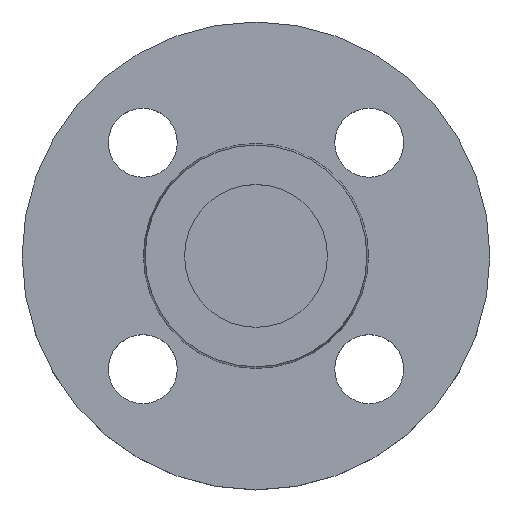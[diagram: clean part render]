
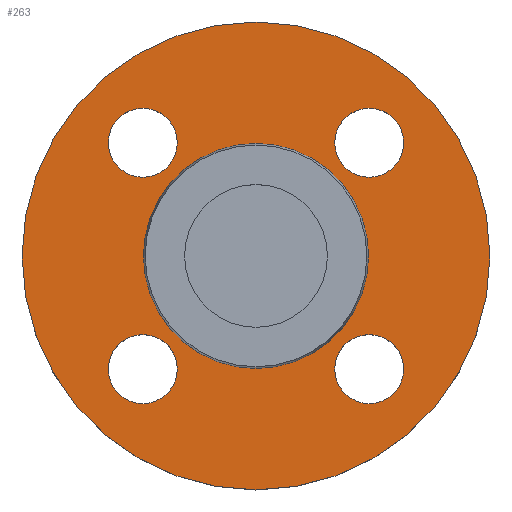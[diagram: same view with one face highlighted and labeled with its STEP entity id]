
A CAD part, top view. The second image highlights one B-rep face of the part: STEP entity #263.
In plain terms, the highlighted planar face has unit normal (0, 0, 1).
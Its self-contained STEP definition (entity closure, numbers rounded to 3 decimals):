
#6 = AXIS2_PLACEMENT_3D ( 'NONE', #18, #15, #14 ) ;
#10 = CARTESIAN_POINT ( 'NONE',  ( 22.981, -22.981, -2. ) ) ;
#11 = CIRCLE ( 'NONE', #563, 47.5 ) ;
#13 = DIRECTION ( 'NONE',  ( 0., 0., -1. ) ) ;
#14 = DIRECTION ( 'NONE',  ( 1., 0., 0. ) ) ;
#15 = DIRECTION ( 'NONE',  ( 0., 0., -1. ) ) ;
#16 = FACE_OUTER_BOUND ( 'NONE', #622, .T. ) ;
#18 = CARTESIAN_POINT ( 'NONE',  ( -22.981, -22.981, -2. ) ) ;
#19 = EDGE_CURVE ( 'NONE', #378, #370, #11, .T. ) ;
#21 = DIRECTION ( 'NONE',  ( 1., 0., 0. ) ) ;
#24 = DIRECTION ( 'NONE',  ( 1., 0., 0. ) ) ;
#25 = DIRECTION ( 'NONE',  ( 0., 0., -1. ) ) ;
#27 = CARTESIAN_POINT ( 'NONE',  ( 22.981, -22.981, -2. ) ) ;
#53 = DIRECTION ( 'NONE',  ( 1., 0., 0. ) ) ;
#54 = DIRECTION ( 'NONE',  ( 0., 0., -1. ) ) ;
#55 = CARTESIAN_POINT ( 'NONE',  ( 22.981, 22.981, -2. ) ) ;
#58 = DIRECTION ( 'NONE',  ( 0., 0., -1. ) ) ;
#76 = AXIS2_PLACEMENT_3D ( 'NONE', #291, #130, #760 ) ;
#77 = DIRECTION ( 'NONE',  ( -1., 0., 0. ) ) ;
#80 = CARTESIAN_POINT ( 'NONE',  ( 0., 0., -2. ) ) ;
#87 = CARTESIAN_POINT ( 'NONE',  ( -15.981, -22.981, -2. ) ) ;
#95 = CARTESIAN_POINT ( 'NONE',  ( 15.981, -22.981, -2. ) ) ;
#99 = CARTESIAN_POINT ( 'NONE',  ( 29.981, 22.981, -2. ) ) ;
#100 = CARTESIAN_POINT ( 'NONE',  ( 15.981, 22.981, -2. ) ) ;
#102 = CIRCLE ( 'NONE', #757, 7. ) ;
#110 = CARTESIAN_POINT ( 'NONE',  ( -15.981, 22.981, -2. ) ) ;
#128 = CIRCLE ( 'NONE', #76, 47.5 ) ;
#130 = DIRECTION ( 'NONE',  ( 0., 0., -1. ) ) ;
#134 = CARTESIAN_POINT ( 'NONE',  ( -29.981, -22.981, -2. ) ) ;
#138 = CARTESIAN_POINT ( 'NONE',  ( 29.981, -22.981, -2. ) ) ;
#159 = DIRECTION ( 'NONE',  ( 0., 0., -1. ) ) ;
#165 = DIRECTION ( 'NONE',  ( 1., 0., 0. ) ) ;
#171 = DIRECTION ( 'NONE',  ( 1., 0., 0. ) ) ;
#173 = DIRECTION ( 'NONE',  ( 0., 0., -1. ) ) ;
#174 = CARTESIAN_POINT ( 'NONE',  ( 22.981, 22.981, -2. ) ) ;
#183 = CIRCLE ( 'NONE', #456, 7. ) ;
#184 = CARTESIAN_POINT ( 'NONE',  ( 47.5, 0., -2. ) ) ;
#195 = CARTESIAN_POINT ( 'NONE',  ( 22.853, 0., -2. ) ) ;
#200 = CIRCLE ( 'NONE', #293, 7. ) ;
#235 = CARTESIAN_POINT ( 'NONE',  ( -22.981, 22.981, -2. ) ) ;
#242 = DIRECTION ( 'NONE',  ( 1., 0., 0. ) ) ;
#243 = DIRECTION ( 'NONE',  ( 0., 0., -1. ) ) ;
#253 = EDGE_CURVE ( 'NONE', #370, #378, #128, .T. ) ;
#256 = CARTESIAN_POINT ( 'NONE',  ( -29.981, 22.981, -2. ) ) ;
#260 = CARTESIAN_POINT ( 'NONE',  ( -47.5, 0., -2. ) ) ;
#263 = ADVANCED_FACE ( 'NONE', ( #761, #762, #763, #765, #323, #16 ), #766, .T. ) ;
#267 = DIRECTION ( 'NONE',  ( 1., 0., 0. ) ) ;
#287 = EDGE_CURVE ( 'NONE', #529, #390, #637, .T. ) ;
#291 = CARTESIAN_POINT ( 'NONE',  ( 0., 0., -2. ) ) ;
#293 = AXIS2_PLACEMENT_3D ( 'NONE', #235, #243, #242 ) ;
#295 = AXIS2_PLACEMENT_3D ( 'NONE', #80, #58, #77 ) ;
#296 = AXIS2_PLACEMENT_3D ( 'NONE', #789, #791, #793 ) ;
#312 = CIRCLE ( 'NONE', #295, 22.853 ) ;
#313 = CARTESIAN_POINT ( 'NONE',  ( -22.853, 0., -2. ) ) ;
#317 = CIRCLE ( 'NONE', #785, 7. ) ;
#323 = FACE_BOUND ( 'NONE', #625, .T. ) ;
#337 = EDGE_CURVE ( 'NONE', #632, #588, #183, .T. ) ;
#340 = EDGE_CURVE ( 'NONE', #390, #529, #312, .T. ) ;
#365 = EDGE_CURVE ( 'NONE', #594, #639, #317, .T. ) ;
#370 = VERTEX_POINT ( 'NONE', #184 ) ;
#373 = EDGE_LOOP ( 'NONE', ( #578, #476 ) ) ;
#378 = VERTEX_POINT ( 'NONE', #260 ) ;
#390 = VERTEX_POINT ( 'NONE', #313 ) ;
#430 = VERTEX_POINT ( 'NONE', #256 ) ;
#440 = CIRCLE ( 'NONE', #682, 7. ) ;
#454 = AXIS2_PLACEMENT_3D ( 'NONE', #27, #25, #24 ) ;
#456 = AXIS2_PLACEMENT_3D ( 'NONE', #10, #13, #21 ) ;
#471 = DIRECTION ( 'NONE',  ( 0., 0., -1. ) ) ;
#475 = ORIENTED_EDGE ( 'NONE', *, *, #725, .T. ) ;
#476 = ORIENTED_EDGE ( 'NONE', *, *, #365, .T. ) ;
#477 = ORIENTED_EDGE ( 'NONE', *, *, #819, .T. ) ;
#478 = ORIENTED_EDGE ( 'NONE', *, *, #491, .T. ) ;
#480 = ORIENTED_EDGE ( 'NONE', *, *, #687, .T. ) ;
#481 = ORIENTED_EDGE ( 'NONE', *, *, #547, .T. ) ;
#485 = ORIENTED_EDGE ( 'NONE', *, *, #340, .T. ) ;
#487 = ORIENTED_EDGE ( 'NONE', *, *, #287, .T. ) ;
#489 = ORIENTED_EDGE ( 'NONE', *, *, #253, .F. ) ;
#490 = ORIENTED_EDGE ( 'NONE', *, *, #19, .F. ) ;
#491 = EDGE_CURVE ( 'NONE', #430, #618, #200, .T. ) ;
#512 = AXIS2_PLACEMENT_3D ( 'NONE', #768, #769, #771 ) ;
#525 = AXIS2_PLACEMENT_3D ( 'NONE', #55, #54, #53 ) ;
#529 = VERTEX_POINT ( 'NONE', #195 ) ;
#532 = CARTESIAN_POINT ( 'NONE',  ( -22.981, -22.981, -2. ) ) ;
#547 = EDGE_CURVE ( 'NONE', #628, #630, #440, .T. ) ;
#563 = AXIS2_PLACEMENT_3D ( 'NONE', #646, #648, #649 ) ;
#578 = ORIENTED_EDGE ( 'NONE', *, *, #740, .T. ) ;
#581 = EDGE_LOOP ( 'NONE', ( #480, #481 ) ) ;
#588 = VERTEX_POINT ( 'NONE', #138 ) ;
#594 = VERTEX_POINT ( 'NONE', #134 ) ;
#600 = EDGE_LOOP ( 'NONE', ( #477, #478 ) ) ;
#611 = ORIENTED_EDGE ( 'NONE', *, *, #337, .T. ) ;
#613 = EDGE_LOOP ( 'NONE', ( #475, #611 ) ) ;
#618 = VERTEX_POINT ( 'NONE', #110 ) ;
#622 = EDGE_LOOP ( 'NONE', ( #489, #490 ) ) ;
#625 = EDGE_LOOP ( 'NONE', ( #485, #487 ) ) ;
#628 = VERTEX_POINT ( 'NONE', #100 ) ;
#630 = VERTEX_POINT ( 'NONE', #99 ) ;
#632 = VERTEX_POINT ( 'NONE', #95 ) ;
#637 = CIRCLE ( 'NONE', #296, 22.853 ) ;
#639 = VERTEX_POINT ( 'NONE', #87 ) ;
#646 = CARTESIAN_POINT ( 'NONE',  ( 0., 0., -2. ) ) ;
#648 = DIRECTION ( 'NONE',  ( 0., 0., -1. ) ) ;
#649 = DIRECTION ( 'NONE',  ( -1., 0., 0. ) ) ;
#678 = CIRCLE ( 'NONE', #454, 7. ) ;
#682 = AXIS2_PLACEMENT_3D ( 'NONE', #174, #173, #171 ) ;
#687 = EDGE_CURVE ( 'NONE', #630, #628, #749, .T. ) ;
#716 = CIRCLE ( 'NONE', #6, 7. ) ;
#725 = EDGE_CURVE ( 'NONE', #588, #632, #678, .T. ) ;
#740 = EDGE_CURVE ( 'NONE', #639, #594, #716, .T. ) ;
#749 = CIRCLE ( 'NONE', #525, 7. ) ;
#757 = AXIS2_PLACEMENT_3D ( 'NONE', #801, #471, #267 ) ;
#760 = DIRECTION ( 'NONE',  ( -1., 0., 0. ) ) ;
#761 = FACE_BOUND ( 'NONE', #613, .T. ) ;
#762 = FACE_BOUND ( 'NONE', #373, .T. ) ;
#763 = FACE_BOUND ( 'NONE', #600, .T. ) ;
#765 = FACE_BOUND ( 'NONE', #581, .T. ) ;
#766 = PLANE ( 'NONE',  #512 ) ;
#768 = CARTESIAN_POINT ( 'NONE',  ( 22.853, 0., -2. ) ) ;
#769 = DIRECTION ( 'NONE',  ( 0., 0., 1. ) ) ;
#771 = DIRECTION ( 'NONE',  ( 1., 0., 0. ) ) ;
#785 = AXIS2_PLACEMENT_3D ( 'NONE', #532, #159, #165 ) ;
#789 = CARTESIAN_POINT ( 'NONE',  ( 0., 0., -2. ) ) ;
#791 = DIRECTION ( 'NONE',  ( 0., 0., -1. ) ) ;
#793 = DIRECTION ( 'NONE',  ( -1., 0., 0. ) ) ;
#801 = CARTESIAN_POINT ( 'NONE',  ( -22.981, 22.981, -2. ) ) ;
#819 = EDGE_CURVE ( 'NONE', #618, #430, #102, .T. ) ;
